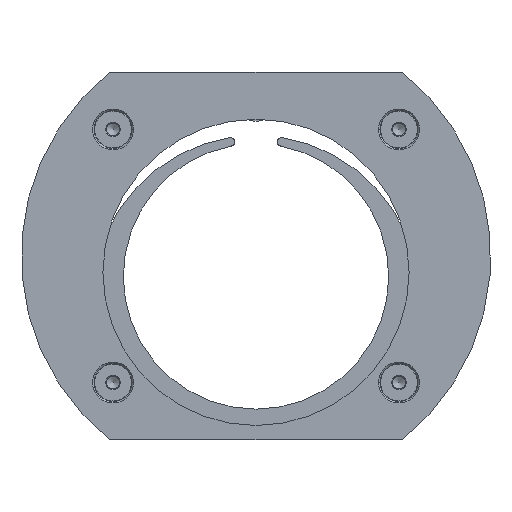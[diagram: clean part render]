
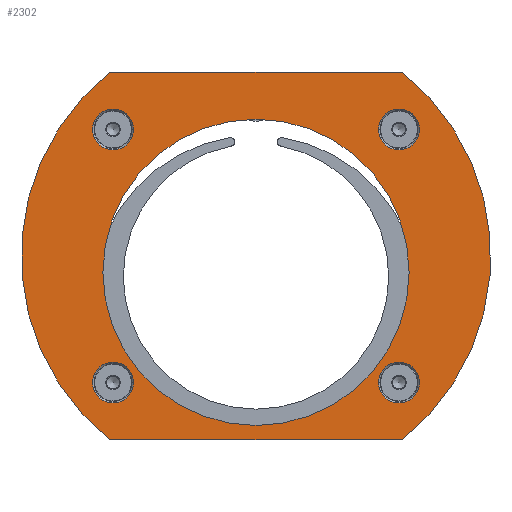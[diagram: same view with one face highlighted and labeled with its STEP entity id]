
A CAD part, front view. The second image highlights one B-rep face of the part: STEP entity #2302.
In plain terms, the highlighted planar face has unit normal (0, -1, 0).
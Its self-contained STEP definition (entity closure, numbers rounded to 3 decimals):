
#149=FACE_BOUND('',#391,.T.);
#150=FACE_BOUND('',#392,.T.);
#151=FACE_BOUND('',#393,.T.);
#152=FACE_BOUND('',#394,.T.);
#153=FACE_BOUND('',#395,.T.);
#188=PLANE('',#2631);
#254=FACE_OUTER_BOUND('',#390,.T.);
#390=EDGE_LOOP('',(#1612,#1613,#1614,#1615));
#391=EDGE_LOOP('',(#1616));
#392=EDGE_LOOP('',(#1617));
#393=EDGE_LOOP('',(#1618));
#394=EDGE_LOOP('',(#1619));
#395=EDGE_LOOP('',(#1620));
#551=LINE('',#3803,#686);
#552=LINE('',#3807,#687);
#686=VECTOR('',#3012,10.);
#687=VECTOR('',#3015,10.);
#840=CIRCLE('',#2630,5.);
#841=CIRCLE('',#2632,57.5);
#842=CIRCLE('',#2633,57.5);
#843=CIRCLE('',#2634,5.);
#844=CIRCLE('',#2635,5.);
#845=CIRCLE('',#2636,37.5);
#846=CIRCLE('',#2637,5.);
#1019=VERTEX_POINT('',#3797);
#1020=VERTEX_POINT('',#3801);
#1021=VERTEX_POINT('',#3802);
#1022=VERTEX_POINT('',#3804);
#1023=VERTEX_POINT('',#3806);
#1024=VERTEX_POINT('',#3809);
#1025=VERTEX_POINT('',#3811);
#1026=VERTEX_POINT('',#3813);
#1027=VERTEX_POINT('',#3815);
#1257=EDGE_CURVE('',#1019,#1019,#840,.T.);
#1258=EDGE_CURVE('',#1020,#1021,#551,.T.);
#1259=EDGE_CURVE('',#1022,#1020,#841,.T.);
#1260=EDGE_CURVE('',#1023,#1022,#552,.T.);
#1261=EDGE_CURVE('',#1021,#1023,#842,.T.);
#1262=EDGE_CURVE('',#1024,#1024,#843,.T.);
#1263=EDGE_CURVE('',#1025,#1025,#844,.T.);
#1264=EDGE_CURVE('',#1026,#1026,#845,.T.);
#1265=EDGE_CURVE('',#1027,#1027,#846,.T.);
#1612=ORIENTED_EDGE('',*,*,#1258,.F.);
#1613=ORIENTED_EDGE('',*,*,#1259,.F.);
#1614=ORIENTED_EDGE('',*,*,#1260,.F.);
#1615=ORIENTED_EDGE('',*,*,#1261,.F.);
#1616=ORIENTED_EDGE('',*,*,#1262,.F.);
#1617=ORIENTED_EDGE('',*,*,#1263,.F.);
#1618=ORIENTED_EDGE('',*,*,#1264,.F.);
#1619=ORIENTED_EDGE('',*,*,#1265,.F.);
#1620=ORIENTED_EDGE('',*,*,#1257,.F.);
#2302=ADVANCED_FACE('',(#254,#149,#150,#151,#152,#153),#188,.F.);
#2630=AXIS2_PLACEMENT_3D('',#3799,#3008,#3009);
#2631=AXIS2_PLACEMENT_3D('',#3800,#3010,#3011);
#2632=AXIS2_PLACEMENT_3D('',#3805,#3013,#3014);
#2633=AXIS2_PLACEMENT_3D('',#3808,#3016,#3017);
#2634=AXIS2_PLACEMENT_3D('',#3810,#3018,#3019);
#2635=AXIS2_PLACEMENT_3D('',#3812,#3020,#3021);
#2636=AXIS2_PLACEMENT_3D('',#3814,#3022,#3023);
#2637=AXIS2_PLACEMENT_3D('',#3816,#3024,#3025);
#3008=DIRECTION('center_axis',(0.,-1.,0.));
#3009=DIRECTION('ref_axis',(1.,0.,0.));
#3010=DIRECTION('center_axis',(0.,1.,0.));
#3011=DIRECTION('ref_axis',(0.,0.,1.));
#3012=DIRECTION('',(1.,0.,0.));
#3013=DIRECTION('center_axis',(0.,1.,0.));
#3014=DIRECTION('ref_axis',(-0.623,0.,-0.783));
#3015=DIRECTION('',(-1.,0.,0.));
#3016=DIRECTION('center_axis',(0.,1.,0.));
#3017=DIRECTION('ref_axis',(0.623,0.,0.783));
#3018=DIRECTION('center_axis',(0.,-1.,0.));
#3019=DIRECTION('ref_axis',(1.,0.,0.));
#3020=DIRECTION('center_axis',(0.,-1.,0.));
#3021=DIRECTION('ref_axis',(1.,0.,0.));
#3022=DIRECTION('center_axis',(0.,-1.,0.));
#3023=DIRECTION('ref_axis',(1.,0.,0.));
#3024=DIRECTION('center_axis',(0.,-1.,0.));
#3025=DIRECTION('ref_axis',(1.,0.,0.));
#3797=CARTESIAN_POINT('',(30.,0.,31.));
#3799=CARTESIAN_POINT('Origin',(35.,0.,31.));
#3800=CARTESIAN_POINT('Origin',(0.,0.,0.));
#3801=CARTESIAN_POINT('',(-35.795,0.,45.));
#3802=CARTESIAN_POINT('',(35.795,0.,45.));
#3803=CARTESIAN_POINT('',(-35.795,0.,45.));
#3804=CARTESIAN_POINT('',(-35.795,0.,-45.));
#3805=CARTESIAN_POINT('Origin',(0.,0.,0.));
#3806=CARTESIAN_POINT('',(35.795,0.,-45.));
#3807=CARTESIAN_POINT('',(35.795,0.,-45.));
#3808=CARTESIAN_POINT('Origin',(0.,0.,0.));
#3809=CARTESIAN_POINT('',(30.,0.,-31.));
#3810=CARTESIAN_POINT('Origin',(35.,0.,-31.));
#3811=CARTESIAN_POINT('',(-40.,0.,31.));
#3812=CARTESIAN_POINT('Origin',(-35.,0.,31.));
#3813=CARTESIAN_POINT('',(-37.5,0.,-4.));
#3814=CARTESIAN_POINT('Origin',(0.,0.,-4.));
#3815=CARTESIAN_POINT('',(-40.,0.,-31.));
#3816=CARTESIAN_POINT('Origin',(-35.,0.,-31.));
